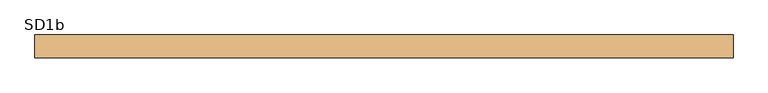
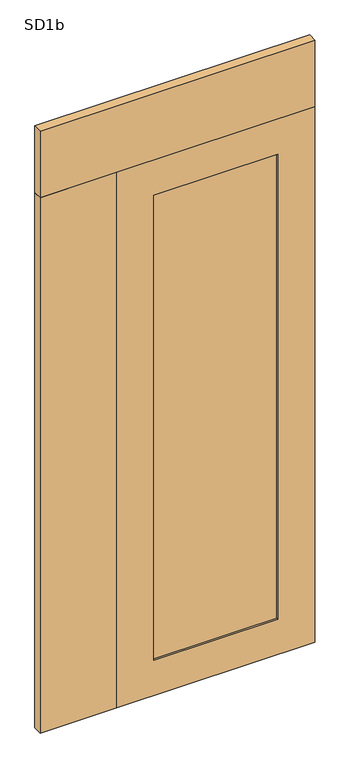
"""IFC4 building model written with IfcOpenShell, lengths in millimetres: door geometry, 営_親子扉+ランマ : SD1b."""

from ifc_helpers import new_model, si_unit, frame, origin, origin_with_axes, place, context, project, spatial, polyline, outline, extrude, source, transform, mapped, element, save


def sd1b_5d5fe467(model_context):
    return source(origin(), model_context, "Body", "SweptSolid", [
        extrude(outline(polyline([(-95.0, -52.0), (405.0, -52.0), (405.0, -72.0), (-95.0, -72.0), (-95.0, -52.0)])), frame((0.0, 0.0, 150.0), z_axis=(0.0, 0.0, 1.0), x_axis=(1.0, 0.0, 0.0)), (0.0, 0.0, 1.0), 1985.0),
        extrude(outline(polyline([(2285.0, -245.0), (0.0, -245.0), (0.0, 555.0), (2285.0, 555.0), (2285.0, -245.0)]), holes=[polyline([(2135.0, -95.0), (2135.0, 405.0), (150.0, 405.0), (150.0, -95.0), (2135.0, -95.0)])]), frame((0.0, -80.0, 0.0), z_axis=(0.0, 1.0, 0.0), x_axis=(0.0, 0.0, 1.0)), (0.0, 0.0, 1.0), 36.0),
        extrude(outline(polyline([(-245.0, -44.0), (-245.0, -80.0), (-555.0, -80.0), (-555.0, -44.0), (-245.0, -44.0)])), origin_with_axes(), (0.0, 0.0, 1.0), 2285.0),
        extrude(outline(polyline([(555.0, -44.0), (555.0, -80.0), (-555.0, -80.0), (-555.0, -44.0), (555.0, -44.0)])), frame((0.0, 0.0, 2285.0), z_axis=(0.0, 0.0, 1.0), x_axis=(1.0, 0.0, 0.0)), (0.0, 0.0, 1.0), 285.0),
    ])


if __name__ == "__main__":
    model = new_model("IFC4")
    model_context = context("Model", 3, world=origin())
    ifc_project = project(units=[si_unit("LENGTHUNIT", "METRE", prefix="MILLI")], contexts=[model_context])
    site = spatial("IfcSite", under=ifc_project)
    building = spatial("IfcBuilding", under=site)
    placement = place(None, origin())
    sd1b_shape = sd1b_5d5fe467(model_context)
    element("IfcDoor", 1, ObjectType="営_親子扉+ランマ : SD1b", at=placement, inside=building, context=model_context, shape_type="MappedRepresentation", body=[
        mapped(sd1b_shape, transform((0.0, 0.0, 0.0), x_axis=(1.0, 0.0, 0.0), y_axis=(0.0, 1.0, 0.0), z_axis=(0.0, 0.0, 1.0))),
    ])
    save(model, "model.ifc")
